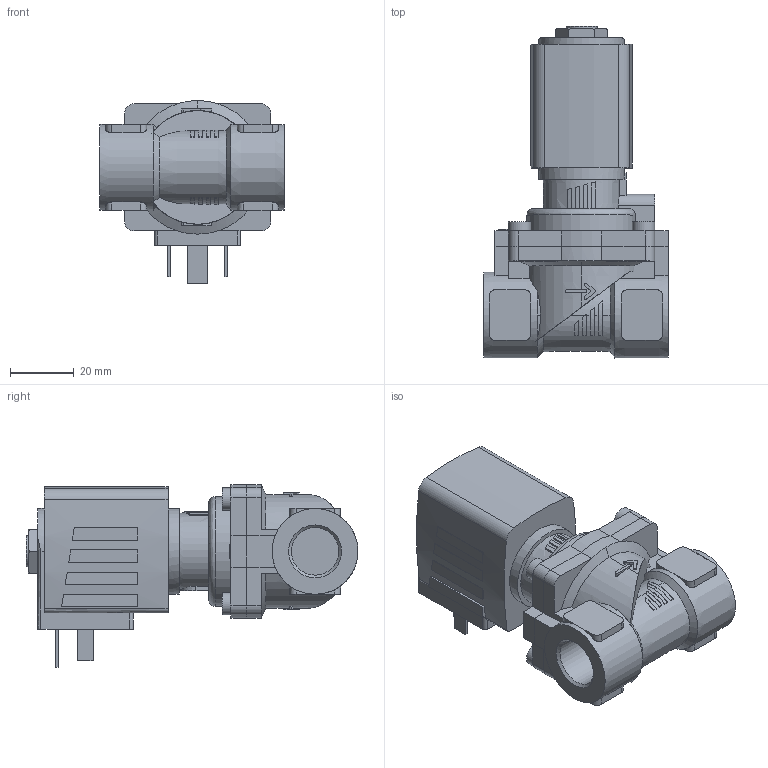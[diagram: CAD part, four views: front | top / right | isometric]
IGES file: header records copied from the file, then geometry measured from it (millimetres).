
Start section: Data from Parasolid IGES Translator 26.0.171, Copyright(c) 2006 Siemens PLM Software. All Rights Reserved.
Global section: file name: 6281-347232-2_2-Way_Solenoid_Valve__Servo-assisted__General_Purpose.igs; native system: By Siemens PLM Incorporated; preprocessor: XPlus GENERIC/IGES 26.0.171; author: Noname; organization: Noname; date: 20240510.143139; units: millimetre
Bounding box: 58 x 104.5 x 57.5 mm (x, y, z)
Surface area: 27921.4 mm2 (no closed solid volume)
Topology: 0 solids, 0 shells, 365 faces, 1930 edges, 1924 vertices
Faces by surface type: extrusion 237, revolution 128
